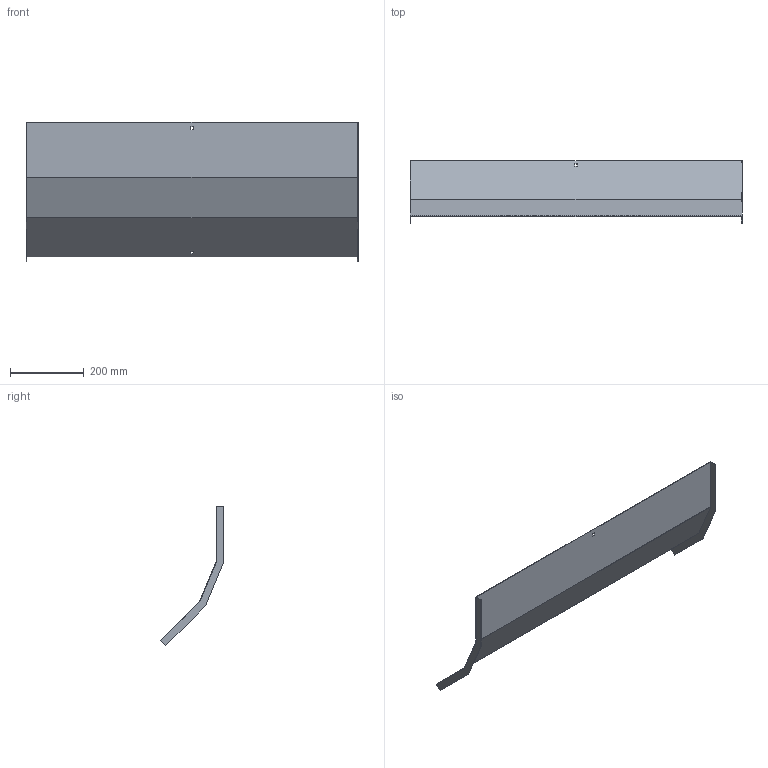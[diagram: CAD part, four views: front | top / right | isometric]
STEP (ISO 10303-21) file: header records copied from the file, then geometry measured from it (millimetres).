
FILE_DESCRIPTION (( 'STEP AP214' ), '1' );
FILE_NAME ('A2X31N3R900X.step', '2025-03-20T09:41:25', ( '' ), ( '' ), 'SwSTEP 2.0', 'SolidWorks 2023', '' );
FILE_SCHEMA (( 'AUTOMOTIVE_DESIGN' ));
Length unit declared in the file: millimetre
Products named in the file (1): A2X31N3R900X
Bounding box: 903 x 171.43 x 379.72 mm (x, y, z)
Volume: 591192.5 mm3; surface area: 792471.1 mm2
Topology: 1 solids, 1 shells, 26 faces, 72 edges, 48 vertices
Faces by surface type: plane 26
Entity records: 847 total; most frequent: CARTESIAN_POINT 147, ORIENTED_EDGE 144, DIRECTION 126, VECTOR 72, LINE 72, EDGE_CURVE 72, VERTEX_POINT 48, EDGE_LOOP 30
